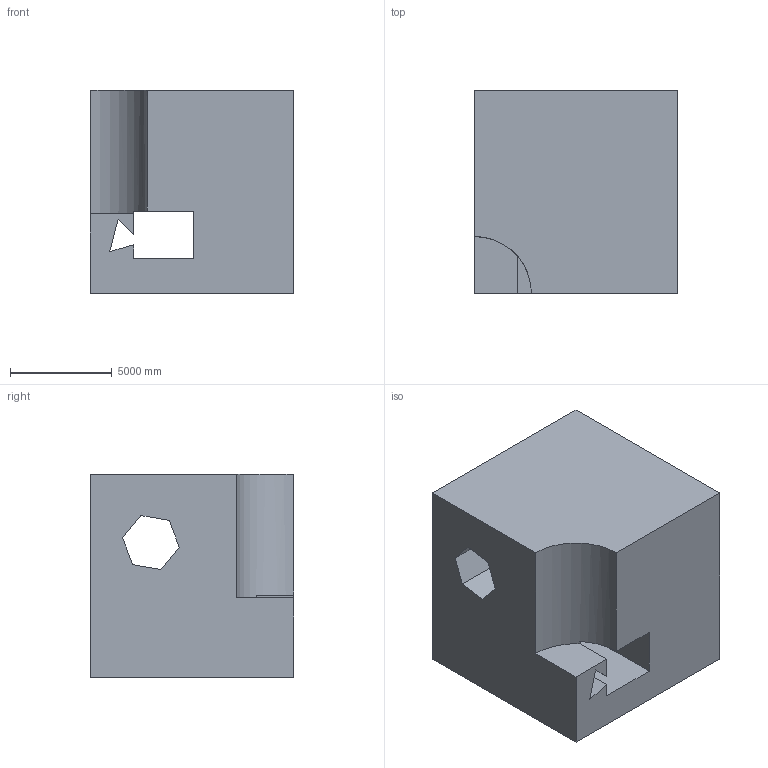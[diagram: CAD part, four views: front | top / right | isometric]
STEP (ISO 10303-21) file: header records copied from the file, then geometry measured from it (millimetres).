
FILE_DESCRIPTION (( 'STEP AP203' ), '1' );
FILE_NAME ('534.STEP', '2022-07-29T11:41:51', ( 'user' ), ( '' ), 'SwSTEP 2.0', 'SolidWorks 2021', '' );
FILE_SCHEMA (( 'CONFIG_CONTROL_DESIGN' ));
Length unit declared in the file: centimetre
Products named in the file (1): 534
Bounding box: 10000 x 10000 x 10000 mm (x, y, z)
Volume: 781711952917.4 mm3; surface area: 817222921.1 mm2
Topology: 1 solids, 1 shells, 30 faces, 87 edges, 58 vertices
Faces by surface type: plane 29, cylinder 1
Entity records: 1059 total; most frequent: CARTESIAN_POINT 176, ORIENTED_EDGE 174, DIRECTION 152, EDGE_CURVE 87, LINE 84, VECTOR 84, VERTEX_POINT 58, AXIS2_PLACEMENT_3D 34
